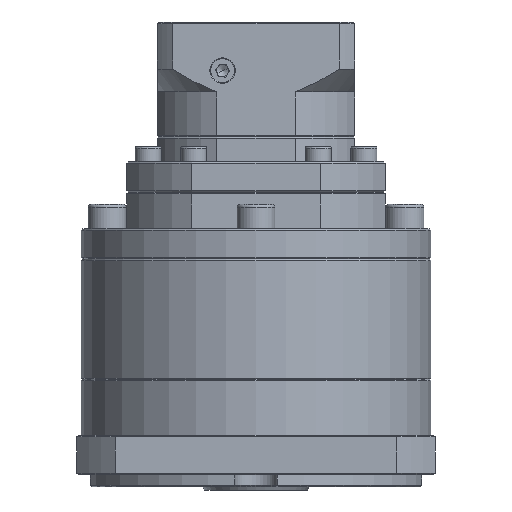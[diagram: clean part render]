
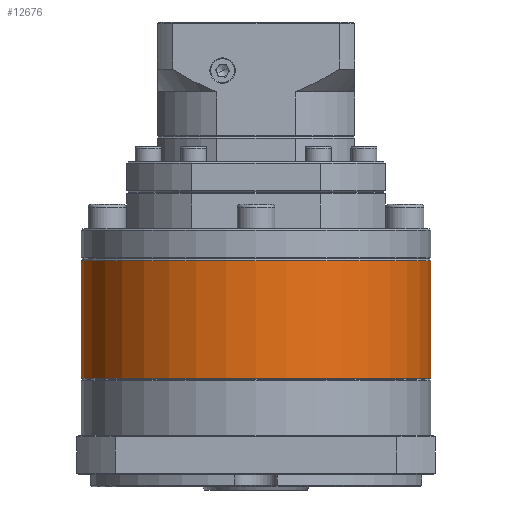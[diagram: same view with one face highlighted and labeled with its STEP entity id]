
A CAD part, front view. The second image highlights one B-rep face of the part: STEP entity #12676.
In plain terms, the highlighted cylindrical face has radius 57.5 mm (diameter 115 mm), a partial arc.
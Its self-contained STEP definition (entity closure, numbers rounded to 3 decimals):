
#614 = CARTESIAN_POINT ( 'NONE',  ( 140.112, 97.429, -81.351 ) ) ;
#3553 = ORIENTED_EDGE ( 'NONE', *, *, #67995, .T. ) ;
#4594 = EDGE_CURVE ( 'NONE', #8061, #90535, #56874, .T. ) ;
#7092 = ORIENTED_EDGE ( 'NONE', *, *, #21458, .T. ) ;
#7331 = AXIS2_PLACEMENT_3D ( 'NONE', #18873, #127336, #37786 ) ;
#8061 = VERTEX_POINT ( 'NONE', #614 ) ;
#9293 = VECTOR ( 'NONE', #115353, 1000. ) ;
#11152 = EDGE_LOOP ( 'NONE', ( #114976, #7092, #87887, #3553 ) ) ;
#12676 = ADVANCED_FACE ( 'NONE', ( #89966 ), #129237, .T. ) ;
#18873 = CARTESIAN_POINT ( 'NONE',  ( 82.612, 97.429, -81.351 ) ) ;
#21417 = CARTESIAN_POINT ( 'NONE',  ( 140.112, 97.429, -80.851 ) ) ;
#21458 = EDGE_CURVE ( 'NONE', #8061, #51333, #75505, .T. ) ;
#22380 = CARTESIAN_POINT ( 'NONE',  ( 140.112, 97.429, -120.062 ) ) ;
#26049 = CIRCLE ( 'NONE', #70903, 57.5 ) ;
#27098 = VECTOR ( 'NONE', #82383, 1000. ) ;
#32347 = CARTESIAN_POINT ( 'NONE',  ( 25.112, 97.429, -80.851 ) ) ;
#34299 = CARTESIAN_POINT ( 'NONE',  ( 82.612, 97.429, -120.062 ) ) ;
#37786 = DIRECTION ( 'NONE',  ( -1., 0., 0. ) ) ;
#41740 = CARTESIAN_POINT ( 'NONE',  ( 25.112, 97.429, -120.062 ) ) ;
#50020 = DIRECTION ( 'NONE',  ( 0., 0., -1. ) ) ;
#51333 = VERTEX_POINT ( 'NONE', #107904 ) ;
#56163 = DIRECTION ( 'NONE',  ( -1., 0., 0. ) ) ;
#56874 = LINE ( 'NONE', #21417, #27098 ) ;
#64971 = DIRECTION ( 'NONE',  ( 0., 0., 1. ) ) ;
#67995 = EDGE_CURVE ( 'NONE', #111207, #90535, #26049, .T. ) ;
#69859 = EDGE_CURVE ( 'NONE', #51333, #111207, #128606, .T. ) ;
#70903 = AXIS2_PLACEMENT_3D ( 'NONE', #34299, #64971, #56163 ) ;
#71236 = AXIS2_PLACEMENT_3D ( 'NONE', #89071, #50020, #90388 ) ;
#75505 = CIRCLE ( 'NONE', #7331, 57.5 ) ;
#82383 = DIRECTION ( 'NONE',  ( 0., 0., -1. ) ) ;
#87887 = ORIENTED_EDGE ( 'NONE', *, *, #69859, .T. ) ;
#89071 = CARTESIAN_POINT ( 'NONE',  ( 82.612, 97.429, -80.851 ) ) ;
#89966 = FACE_OUTER_BOUND ( 'NONE', #11152, .T. ) ;
#90388 = DIRECTION ( 'NONE',  ( -1., 0., 0. ) ) ;
#90535 = VERTEX_POINT ( 'NONE', #22380 ) ;
#107904 = CARTESIAN_POINT ( 'NONE',  ( 25.112, 97.429, -81.351 ) ) ;
#111207 = VERTEX_POINT ( 'NONE', #41740 ) ;
#114976 = ORIENTED_EDGE ( 'NONE', *, *, #4594, .F. ) ;
#115353 = DIRECTION ( 'NONE',  ( 0., 0., -1. ) ) ;
#127336 = DIRECTION ( 'NONE',  ( 0., 0., -1. ) ) ;
#128606 = LINE ( 'NONE', #32347, #9293 ) ;
#129237 = CYLINDRICAL_SURFACE ( 'NONE', #71236, 57.5 ) ;
